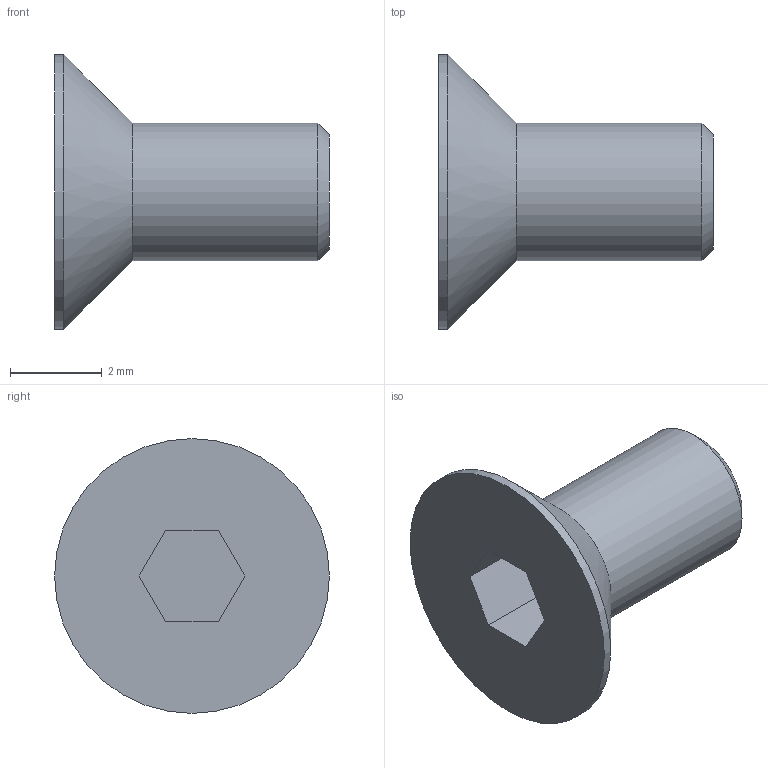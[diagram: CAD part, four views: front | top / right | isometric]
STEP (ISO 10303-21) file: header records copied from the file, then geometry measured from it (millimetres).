
FILE_DESCRIPTION( ( 'STEP AP203' ), '1' );
FILE_NAME( 'C:/FCS-03.stp', '2013-10-15T01:22:09', ( ' ' ), ( ' ' ), 'XStep 1.0', ' ', ' ' );
FILE_SCHEMA( ( 'CONFIG_CONTROL_DESIGN' ) );
Length unit declared in the file: metre
Products named in the file (1): 1
Bounding box: 6 x 6 x 6 mm (x, y, z)
Volume: 50.6 mm3; surface area: 129.2 mm2
Topology: 1 solids, 1 shells, 13 faces, 27 edges, 17 vertices
Faces by surface type: bspline 13
Entity records: 420 total; most frequent: CARTESIAN_POINT 155, ORIENTED_EDGE 46, DIRECTION 28, EDGE_CURVE 23, EDGE_LOOP 18, FACE_OUTER_BOUND 17, VERTEX_POINT 17, LINE 16
